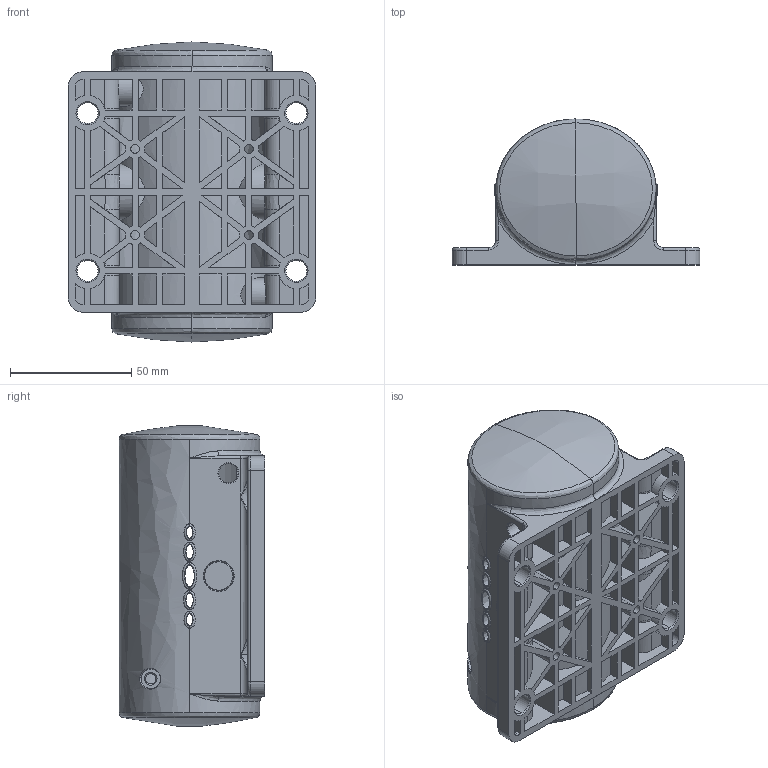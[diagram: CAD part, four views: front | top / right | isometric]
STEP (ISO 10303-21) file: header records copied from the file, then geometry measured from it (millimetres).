
FILE_DESCRIPTION (( 'STEP AP203' ), '1' );
FILE_NAME ('3D_TMM.STEP', '2017-07-07T06:05:49', ( '' ), ( '' ), 'SwSTEP 2.0', 'SolidWorks 2015', '' );
FILE_SCHEMA (( 'CONFIG_CONTROL_DESIGN' ));
Length unit declared in the file: millimetre
Products named in the file (1): 3D_TMM
Bounding box: 102 x 60 x 123.58 mm (x, y, z)
Surface area: 55040.7 mm2 (no closed solid volume)
Topology: 0 solids, 1 shells, 495 faces, 1338 edges, 859 vertices
Faces by surface type: plane 217, cylinder 124, bspline 122, cone 20, torus 12
Entity records: 49824 total; most frequent: CARTESIAN_POINT 38541, ORIENTED_EDGE 2469, DIRECTION 1903, EDGE_CURVE 1326, VERTEX_POINT 859, LINE 723, VECTOR 723, AXIS2_PLACEMENT_3D 590
